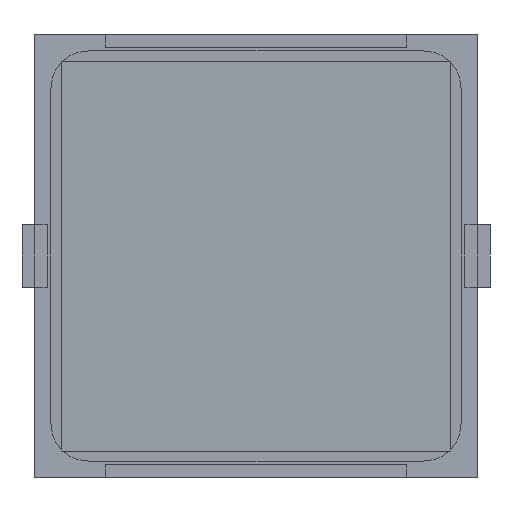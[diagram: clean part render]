
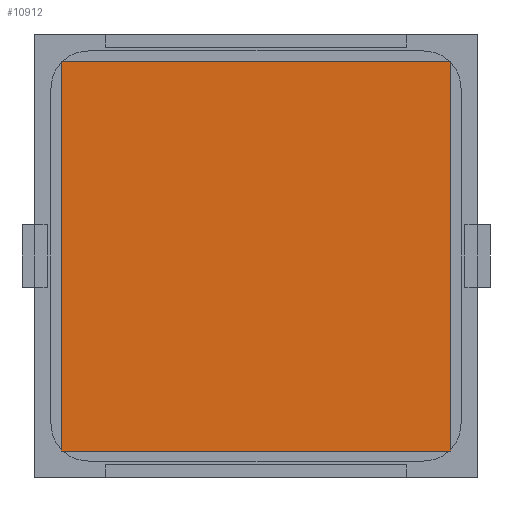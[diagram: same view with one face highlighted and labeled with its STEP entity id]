
A CAD part, front view. The second image highlights one B-rep face of the part: STEP entity #10912.
In plain terms, the highlighted planar face has unit normal (0, -1, 0).
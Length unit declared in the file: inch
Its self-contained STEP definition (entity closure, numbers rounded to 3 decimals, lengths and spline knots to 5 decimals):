
#22 = CARTESIAN_POINT ( 'NONE',  ( -0.61024, -0.005, 0.61024 ) ) ;
#334 = CARTESIAN_POINT ( 'NONE',  ( 0.61024, -0.005, -0.61024 ) ) ;
#1123 = CARTESIAN_POINT ( 'NONE',  ( -0.61024, -0.005, 0.61024 ) ) ;
#1195 = DIRECTION ( 'NONE',  ( 0., 1., 0. ) ) ;
#1678 = EDGE_CURVE ( 'NONE', #11392, #2307, #9421, .T. ) ;
#1932 = DIRECTION ( 'NONE',  ( 0., 0., -1. ) ) ;
#2005 = DIRECTION ( 'NONE',  ( 0., 0., 1. ) ) ;
#2307 = VERTEX_POINT ( 'NONE', #1123 ) ;
#2359 = CARTESIAN_POINT ( 'NONE',  ( -0.61024, -0.005, -0.61024 ) ) ;
#2450 = VECTOR ( 'NONE', #10673, 39.37008 ) ;
#3853 = LINE ( 'NONE', #8125, #4234 ) ;
#3886 = VECTOR ( 'NONE', #1932, 39.37008 ) ;
#4234 = VECTOR ( 'NONE', #4306, 39.37008 ) ;
#4306 = DIRECTION ( 'NONE',  ( -1., 0., 0. ) ) ;
#5001 = EDGE_CURVE ( 'NONE', #8811, #12377, #8319, .T. ) ;
#5747 = EDGE_CURVE ( 'NONE', #2307, #8811, #6429, .T. ) ;
#5899 = EDGE_CURVE ( 'NONE', #12377, #11392, #3853, .T. ) ;
#6429 = LINE ( 'NONE', #22, #2450 ) ;
#6959 = VECTOR ( 'NONE', #2005, 39.37008 ) ;
#7263 = CARTESIAN_POINT ( 'NONE',  ( -0.61024, -0.005, -0.61024 ) ) ;
#7313 = PLANE ( 'NONE',  #10459 ) ;
#7330 = CARTESIAN_POINT ( 'NONE',  ( 0.61024, -0.005, -0.61024 ) ) ;
#7593 = CARTESIAN_POINT ( 'NONE',  ( -0.61024, -0.005, 0.61024 ) ) ;
#7926 = ORIENTED_EDGE ( 'NONE', *, *, #5899, .F. ) ;
#8050 = ORIENTED_EDGE ( 'NONE', *, *, #5001, .F. ) ;
#8125 = CARTESIAN_POINT ( 'NONE',  ( -0.61024, -0.005, -0.61024 ) ) ;
#8319 = LINE ( 'NONE', #7330, #3886 ) ;
#8811 = VERTEX_POINT ( 'NONE', #13531 ) ;
#9421 = LINE ( 'NONE', #7263, #6959 ) ;
#9859 = ORIENTED_EDGE ( 'NONE', *, *, #1678, .F. ) ;
#10459 = AXIS2_PLACEMENT_3D ( 'NONE', #7593, #1195, #11802 ) ;
#10507 = FACE_OUTER_BOUND ( 'NONE', #13751, .T. ) ;
#10673 = DIRECTION ( 'NONE',  ( 1., 0., 0. ) ) ;
#10912 = ADVANCED_FACE ( 'NONE', ( #10507 ), #7313, .F. ) ;
#11392 = VERTEX_POINT ( 'NONE', #2359 ) ;
#11802 = DIRECTION ( 'NONE',  ( 0., 0., 1. ) ) ;
#12377 = VERTEX_POINT ( 'NONE', #334 ) ;
#13512 = ORIENTED_EDGE ( 'NONE', *, *, #5747, .F. ) ;
#13531 = CARTESIAN_POINT ( 'NONE',  ( 0.61024, -0.005, 0.61024 ) ) ;
#13751 = EDGE_LOOP ( 'NONE', ( #9859, #7926, #8050, #13512 ) ) ;
